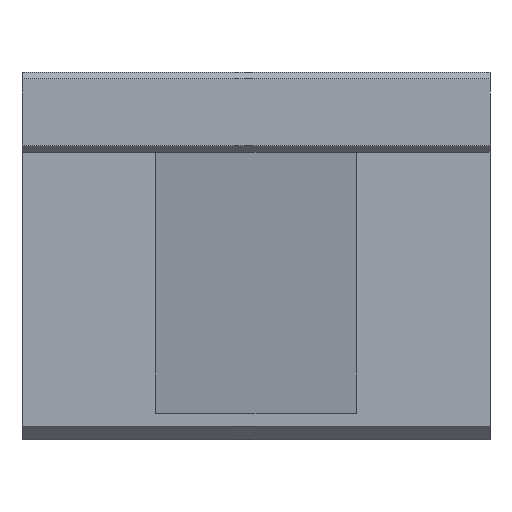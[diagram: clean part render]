
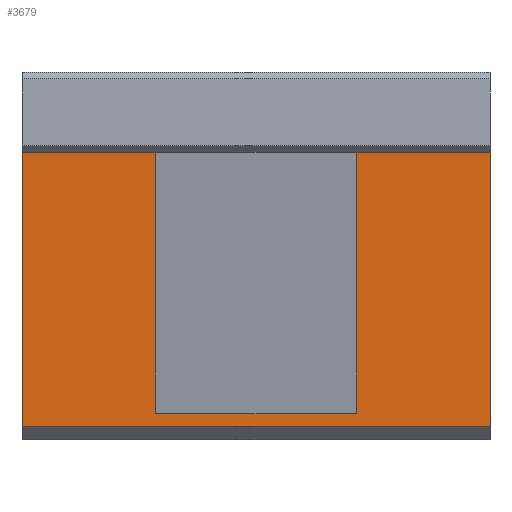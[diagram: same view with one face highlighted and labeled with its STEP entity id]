
A CAD part, front view. The second image highlights one B-rep face of the part: STEP entity #3679.
In plain terms, the highlighted planar face has unit normal (0, -1, 0).
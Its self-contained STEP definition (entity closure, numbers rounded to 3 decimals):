
#2459=CARTESIAN_POINT('',(0.0,-31.,-20.));
#2460=VERTEX_POINT('',#2459);
#2467=CARTESIAN_POINT('',(0.0,-31.,21.));
#2468=VERTEX_POINT('',#2467);
#2469=CARTESIAN_POINT('',(0.0,-31.,21.));
#2470=DIRECTION('',(0.0,0.0,-1.0));
#2471=VECTOR('',#2470,41.);
#2472=LINE('',#2469,#2471);
#2473=EDGE_CURVE('',#2468,#2460,#2472,.T.);
#2514=CARTESIAN_POINT('',(50.0,-31.,21.));
#2515=VERTEX_POINT('',#2514);
#2522=CARTESIAN_POINT('',(70.0,-31.,21.));
#2523=VERTEX_POINT('',#2522);
#2524=CARTESIAN_POINT('',(50.0,-31.,21.));
#2525=DIRECTION('',(1.0,0.0,0.0));
#2526=VECTOR('',#2525,20.0);
#2527=LINE('',#2524,#2526);
#2528=EDGE_CURVE('',#2515,#2523,#2527,.T.);
#2557=CARTESIAN_POINT('',(70.0,-31.,-20.));
#2558=VERTEX_POINT('',#2557);
#2559=CARTESIAN_POINT('',(70.0,-31.,-20.));
#2560=DIRECTION('',(0.0,0.0,1.0));
#2561=VECTOR('',#2560,41.);
#2562=LINE('',#2559,#2561);
#2563=EDGE_CURVE('',#2558,#2523,#2562,.T.);
#3170=CARTESIAN_POINT('',(70.0,-31.,-20.));
#3171=DIRECTION('',(-1.0,0.0,0.0));
#3172=VECTOR('',#3171,70.0);
#3173=LINE('',#3170,#3172);
#3174=EDGE_CURVE('',#2558,#2460,#3173,.T.);
#3380=CARTESIAN_POINT('',(20.0,-31.,21.));
#3381=VERTEX_POINT('',#3380);
#3388=CARTESIAN_POINT('',(20.0,-31.,-18.));
#3389=VERTEX_POINT('',#3388);
#3390=CARTESIAN_POINT('',(20.0,-31.,-18.));
#3391=DIRECTION('',(0.0,0.0,1.0));
#3392=VECTOR('',#3391,39.);
#3393=LINE('',#3390,#3392);
#3394=EDGE_CURVE('',#3389,#3381,#3393,.T.);
#3410=CARTESIAN_POINT('',(50.0,-31.,-18.));
#3411=VERTEX_POINT('',#3410);
#3427=CARTESIAN_POINT('',(50.0,-31.,-18.));
#3428=DIRECTION('',(-1.0,0.0,0.0));
#3429=VECTOR('',#3428,30.0);
#3430=LINE('',#3427,#3429);
#3431=EDGE_CURVE('',#3411,#3389,#3430,.T.);
#3458=CARTESIAN_POINT('',(50.0,-31.,21.));
#3459=DIRECTION('',(0.0,0.0,-1.0));
#3460=VECTOR('',#3459,39.);
#3461=LINE('',#3458,#3460);
#3462=EDGE_CURVE('',#2515,#3411,#3461,.T.);
#3659=CARTESIAN_POINT('',(0.0,-31.,-22.));
#3660=DIRECTION('',(0.0,-1.0,0.0));
#3661=DIRECTION('',(0.0,0.0,-1.0));
#3662=AXIS2_PLACEMENT_3D('',#3659,#3660,#3661);
#3663=PLANE('',#3662);
#3664=ORIENTED_EDGE('',*,*,#3174,.F.);
#3665=ORIENTED_EDGE('',*,*,#2563,.T.);
#3666=ORIENTED_EDGE('',*,*,#2528,.F.);
#3667=ORIENTED_EDGE('',*,*,#3462,.T.);
#3668=ORIENTED_EDGE('',*,*,#3431,.T.);
#3669=ORIENTED_EDGE('',*,*,#3394,.T.);
#3670=CARTESIAN_POINT('',(0.0,-31.,21.));
#3671=DIRECTION('',(1.0,0.0,0.0));
#3672=VECTOR('',#3671,20.0);
#3673=LINE('',#3670,#3672);
#3674=EDGE_CURVE('',#2468,#3381,#3673,.T.);
#3675=ORIENTED_EDGE('',*,*,#3674,.F.);
#3676=ORIENTED_EDGE('',*,*,#2473,.T.);
#3677=EDGE_LOOP('',(#3664,#3665,#3666,#3667,#3668,#3669,#3675,#3676));
#3678=FACE_OUTER_BOUND('',#3677,.T.);
#3679=ADVANCED_FACE('',(#3678),#3663,.T.);
